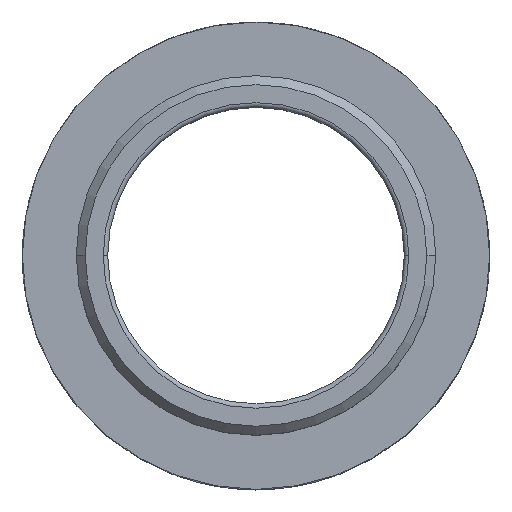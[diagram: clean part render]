
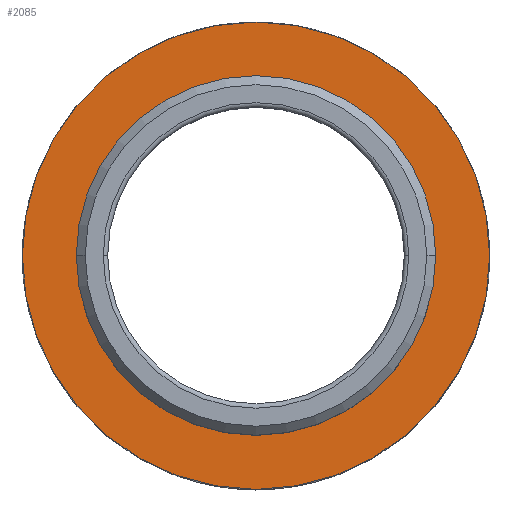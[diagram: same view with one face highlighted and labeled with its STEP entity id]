
A CAD part, top view. The second image highlights one B-rep face of the part: STEP entity #2085.
In plain terms, the highlighted planar face has unit normal (0, 0, 1).
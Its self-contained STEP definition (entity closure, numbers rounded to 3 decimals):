
#1792 = VERTEX_POINT ( 'NONE', #3714 ) ;
#1824 = EDGE_CURVE ( 'NONE', #1835, #1792, #3769, .T. ) ;
#1835 = VERTEX_POINT ( 'NONE', #3798 ) ;
#1954 = VERTEX_POINT ( 'NONE', #3937 ) ;
#2032 = VERTEX_POINT ( 'NONE', #4108 ) ;
#2036 = EDGE_CURVE ( 'NONE', #2032, #1954, #4134, .T. ) ;
#2083 = ORIENTED_EDGE ( 'NONE', *, *, #2036, .F. ) ;
#2085 = ADVANCED_FACE ( 'NONE', ( #4217, #4229 ), #4215, .F. ) ;
#2088 = EDGE_CURVE ( 'NONE', #1792, #1835, #4222, .T. ) ;
#2091 = ORIENTED_EDGE ( 'NONE', *, *, #1824, .F. ) ;
#2092 = ORIENTED_EDGE ( 'NONE', *, *, #2099, .F. ) ;
#2096 = EDGE_LOOP ( 'NONE', ( #2092, #2083 ) ) ;
#2099 = EDGE_CURVE ( 'NONE', #1954, #2032, #4264, .T. ) ;
#2104 = EDGE_LOOP ( 'NONE', ( #2091, #2154 ) ) ;
#2154 = ORIENTED_EDGE ( 'NONE', *, *, #2088, .F. ) ;
#3714 = CARTESIAN_POINT ( 'NONE',  ( -19.25, 0., 0. ) ) ;
#3729 = CARTESIAN_POINT ( 'NONE',  ( 0., 0., 0. ) ) ;
#3756 = DIRECTION ( 'NONE',  ( 1., 0., 0. ) ) ;
#3757 = DIRECTION ( 'NONE',  ( 0., 0., 1. ) ) ;
#3762 = AXIS2_PLACEMENT_3D ( 'NONE', #3729, #3757, #3756 ) ;
#3769 = CIRCLE ( 'NONE', #3762, 19.25 ) ;
#3798 = CARTESIAN_POINT ( 'NONE',  ( 19.25, 0., 0. ) ) ;
#3937 = CARTESIAN_POINT ( 'NONE',  ( 26., 0., 0. ) ) ;
#4108 = CARTESIAN_POINT ( 'NONE',  ( -26., 0., 0. ) ) ;
#4131 = DIRECTION ( 'NONE',  ( -1., 0., 0. ) ) ;
#4132 = DIRECTION ( 'NONE',  ( 0., 0., -1. ) ) ;
#4133 = AXIS2_PLACEMENT_3D ( 'NONE', #4141, #4132, #4131 ) ;
#4134 = CIRCLE ( 'NONE', #4133, 26. ) ;
#4141 = CARTESIAN_POINT ( 'NONE',  ( 0., 0., 0. ) ) ;
#4211 = DIRECTION ( 'NONE',  ( -1., 0., 0. ) ) ;
#4212 = DIRECTION ( 'NONE',  ( 0., 0., -1. ) ) ;
#4213 = CARTESIAN_POINT ( 'NONE',  ( 0., 0., 0. ) ) ;
#4215 = PLANE ( 'NONE',  #4230 ) ;
#4217 = FACE_OUTER_BOUND ( 'NONE', #2096, .T. ) ;
#4222 = CIRCLE ( 'NONE', #4228, 19.25 ) ;
#4228 = AXIS2_PLACEMENT_3D ( 'NONE', #4278, #4277, #4276 ) ;
#4229 = FACE_BOUND ( 'NONE', #2104, .T. ) ;
#4230 = AXIS2_PLACEMENT_3D ( 'NONE', #4213, #4212, #4211 ) ;
#4249 = DIRECTION ( 'NONE',  ( -1., 0., 0. ) ) ;
#4250 = DIRECTION ( 'NONE',  ( 0., 0., -1. ) ) ;
#4251 = CARTESIAN_POINT ( 'NONE',  ( 0., 0., 0. ) ) ;
#4264 = CIRCLE ( 'NONE', #4279, 26. ) ;
#4276 = DIRECTION ( 'NONE',  ( 1., 0., 0. ) ) ;
#4277 = DIRECTION ( 'NONE',  ( 0., 0., 1. ) ) ;
#4278 = CARTESIAN_POINT ( 'NONE',  ( 0., 0., 0. ) ) ;
#4279 = AXIS2_PLACEMENT_3D ( 'NONE', #4251, #4250, #4249 ) ;
